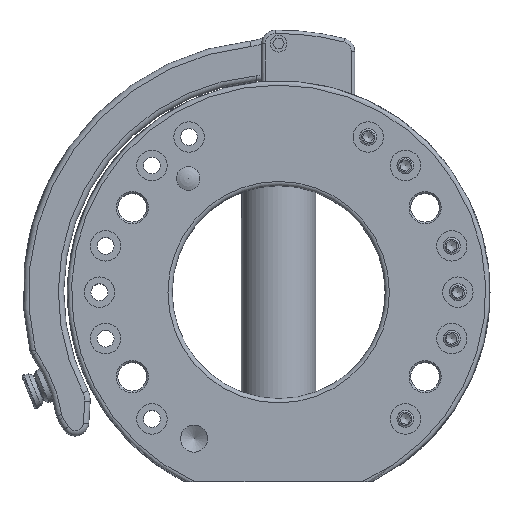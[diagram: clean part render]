
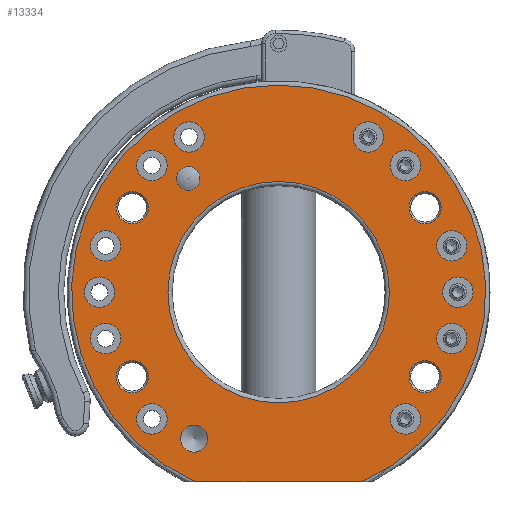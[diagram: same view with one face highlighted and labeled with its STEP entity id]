
A CAD part, top view. The second image highlights one B-rep face of the part: STEP entity #13334.
In plain terms, the highlighted planar face has unit normal (0, 0, 1).
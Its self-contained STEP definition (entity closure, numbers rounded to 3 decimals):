
#380=FACE_BOUND('',#3594,.T.);
#381=FACE_BOUND('',#3595,.T.);
#382=FACE_BOUND('',#3596,.T.);
#383=FACE_BOUND('',#3597,.T.);
#384=FACE_BOUND('',#3598,.T.);
#385=FACE_BOUND('',#3599,.T.);
#386=FACE_BOUND('',#3600,.T.);
#387=FACE_BOUND('',#3601,.T.);
#388=FACE_BOUND('',#3602,.T.);
#389=FACE_BOUND('',#3603,.T.);
#390=FACE_BOUND('',#3604,.T.);
#391=FACE_BOUND('',#3605,.T.);
#392=FACE_BOUND('',#3606,.T.);
#393=FACE_BOUND('',#3607,.T.);
#394=FACE_BOUND('',#3608,.T.);
#395=FACE_BOUND('',#3609,.T.);
#396=FACE_BOUND('',#3610,.T.);
#397=FACE_BOUND('',#3611,.T.);
#398=FACE_BOUND('',#3612,.T.);
#574=PLANE('',#14561);
#1088=LINE('',#26298,#1837);
#1837=VECTOR('',#16883,10.);
#2744=FACE_OUTER_BOUND('',#3593,.T.);
#3593=EDGE_LOOP('',(#10117,#10118));
#3594=EDGE_LOOP('',(#10119));
#3595=EDGE_LOOP('',(#10120));
#3596=EDGE_LOOP('',(#10121));
#3597=EDGE_LOOP('',(#10122));
#3598=EDGE_LOOP('',(#10123));
#3599=EDGE_LOOP('',(#10124));
#3600=EDGE_LOOP('',(#10125));
#3601=EDGE_LOOP('',(#10126));
#3602=EDGE_LOOP('',(#10127));
#3603=EDGE_LOOP('',(#10128));
#3604=EDGE_LOOP('',(#10129));
#3605=EDGE_LOOP('',(#10130));
#3606=EDGE_LOOP('',(#10131));
#3607=EDGE_LOOP('',(#10132));
#3608=EDGE_LOOP('',(#10133));
#3609=EDGE_LOOP('',(#10134));
#3610=EDGE_LOOP('',(#10135));
#3611=EDGE_LOOP('',(#10136));
#3612=EDGE_LOOP('',(#10137));
#5074=CIRCLE('',#14562,61.25);
#5075=CIRCLE('',#14563,32.75);
#5076=CIRCLE('',#14564,3.5);
#5077=CIRCLE('',#14565,4.);
#5078=CIRCLE('',#14566,4.75);
#5079=CIRCLE('',#14567,4.75);
#5080=CIRCLE('',#14568,4.75);
#5081=CIRCLE('',#14569,4.75);
#5082=CIRCLE('',#14570,4.5);
#5083=CIRCLE('',#14571,4.5);
#5084=CIRCLE('',#14572,4.5);
#5085=CIRCLE('',#14573,4.5);
#5086=CIRCLE('',#14574,4.5);
#5087=CIRCLE('',#14575,4.5);
#5088=CIRCLE('',#14576,4.5);
#5089=CIRCLE('',#14577,4.5);
#5090=CIRCLE('',#14578,4.5);
#5091=CIRCLE('',#14579,4.5);
#5092=CIRCLE('',#14580,4.5);
#5093=CIRCLE('',#14581,4.5);
#5993=VERTEX_POINT('',#26296);
#5994=VERTEX_POINT('',#26297);
#5995=VERTEX_POINT('',#26300);
#5996=VERTEX_POINT('',#26302);
#5997=VERTEX_POINT('',#26304);
#5998=VERTEX_POINT('',#26306);
#5999=VERTEX_POINT('',#26308);
#6000=VERTEX_POINT('',#26310);
#6001=VERTEX_POINT('',#26312);
#6002=VERTEX_POINT('',#26314);
#6003=VERTEX_POINT('',#26316);
#6004=VERTEX_POINT('',#26318);
#6005=VERTEX_POINT('',#26320);
#6006=VERTEX_POINT('',#26322);
#6007=VERTEX_POINT('',#26324);
#6008=VERTEX_POINT('',#26326);
#6009=VERTEX_POINT('',#26328);
#6010=VERTEX_POINT('',#26330);
#6011=VERTEX_POINT('',#26332);
#6012=VERTEX_POINT('',#26334);
#6013=VERTEX_POINT('',#26336);
#7518=EDGE_CURVE('',#5993,#5994,#1088,.T.);
#7519=EDGE_CURVE('',#5993,#5994,#5074,.T.);
#7520=EDGE_CURVE('',#5995,#5995,#5075,.T.);
#7521=EDGE_CURVE('',#5996,#5996,#5076,.T.);
#7522=EDGE_CURVE('',#5997,#5997,#5077,.T.);
#7523=EDGE_CURVE('',#5998,#5998,#5078,.T.);
#7524=EDGE_CURVE('',#5999,#5999,#5079,.T.);
#7525=EDGE_CURVE('',#6000,#6000,#5080,.T.);
#7526=EDGE_CURVE('',#6001,#6001,#5081,.T.);
#7527=EDGE_CURVE('',#6002,#6002,#5082,.T.);
#7528=EDGE_CURVE('',#6003,#6003,#5083,.T.);
#7529=EDGE_CURVE('',#6004,#6004,#5084,.T.);
#7530=EDGE_CURVE('',#6005,#6005,#5085,.T.);
#7531=EDGE_CURVE('',#6006,#6006,#5086,.T.);
#7532=EDGE_CURVE('',#6007,#6007,#5087,.T.);
#7533=EDGE_CURVE('',#6008,#6008,#5088,.T.);
#7534=EDGE_CURVE('',#6009,#6009,#5089,.T.);
#7535=EDGE_CURVE('',#6010,#6010,#5090,.T.);
#7536=EDGE_CURVE('',#6011,#6011,#5091,.T.);
#7537=EDGE_CURVE('',#6012,#6012,#5092,.T.);
#7538=EDGE_CURVE('',#6013,#6013,#5093,.T.);
#10117=ORIENTED_EDGE('',*,*,#7518,.T.);
#10118=ORIENTED_EDGE('',*,*,#7519,.F.);
#10119=ORIENTED_EDGE('',*,*,#7520,.F.);
#10120=ORIENTED_EDGE('',*,*,#7521,.T.);
#10121=ORIENTED_EDGE('',*,*,#7522,.T.);
#10122=ORIENTED_EDGE('',*,*,#7523,.F.);
#10123=ORIENTED_EDGE('',*,*,#7524,.F.);
#10124=ORIENTED_EDGE('',*,*,#7525,.F.);
#10125=ORIENTED_EDGE('',*,*,#7526,.F.);
#10126=ORIENTED_EDGE('',*,*,#7527,.T.);
#10127=ORIENTED_EDGE('',*,*,#7528,.T.);
#10128=ORIENTED_EDGE('',*,*,#7529,.T.);
#10129=ORIENTED_EDGE('',*,*,#7530,.T.);
#10130=ORIENTED_EDGE('',*,*,#7531,.T.);
#10131=ORIENTED_EDGE('',*,*,#7532,.T.);
#10132=ORIENTED_EDGE('',*,*,#7533,.T.);
#10133=ORIENTED_EDGE('',*,*,#7534,.T.);
#10134=ORIENTED_EDGE('',*,*,#7535,.T.);
#10135=ORIENTED_EDGE('',*,*,#7536,.T.);
#10136=ORIENTED_EDGE('',*,*,#7537,.T.);
#10137=ORIENTED_EDGE('',*,*,#7538,.T.);
#13334=ADVANCED_FACE('',(#2744,#380,#381,#382,#383,#384,#385,#386,#387,
#388,#389,#390,#391,#392,#393,#394,#395,#396,#397,#398),#574,.T.);
#14561=AXIS2_PLACEMENT_3D('',#26295,#16881,#16882);
#14562=AXIS2_PLACEMENT_3D('',#26299,#16884,#16885);
#14563=AXIS2_PLACEMENT_3D('',#26301,#16886,#16887);
#14564=AXIS2_PLACEMENT_3D('',#26303,#16888,#16889);
#14565=AXIS2_PLACEMENT_3D('',#26305,#16890,#16891);
#14566=AXIS2_PLACEMENT_3D('',#26307,#16892,#16893);
#14567=AXIS2_PLACEMENT_3D('',#26309,#16894,#16895);
#14568=AXIS2_PLACEMENT_3D('',#26311,#16896,#16897);
#14569=AXIS2_PLACEMENT_3D('',#26313,#16898,#16899);
#14570=AXIS2_PLACEMENT_3D('',#26315,#16900,#16901);
#14571=AXIS2_PLACEMENT_3D('',#26317,#16902,#16903);
#14572=AXIS2_PLACEMENT_3D('',#26319,#16904,#16905);
#14573=AXIS2_PLACEMENT_3D('',#26321,#16906,#16907);
#14574=AXIS2_PLACEMENT_3D('',#26323,#16908,#16909);
#14575=AXIS2_PLACEMENT_3D('',#26325,#16910,#16911);
#14576=AXIS2_PLACEMENT_3D('',#26327,#16912,#16913);
#14577=AXIS2_PLACEMENT_3D('',#26329,#16914,#16915);
#14578=AXIS2_PLACEMENT_3D('',#26331,#16916,#16917);
#14579=AXIS2_PLACEMENT_3D('',#26333,#16918,#16919);
#14580=AXIS2_PLACEMENT_3D('',#26335,#16920,#16921);
#14581=AXIS2_PLACEMENT_3D('',#26337,#16922,#16923);
#16881=DIRECTION('center_axis',(0.,0.,
1.));
#16882=DIRECTION('ref_axis',(1.,0.,0.));
#16883=DIRECTION('',(1.,0.,0.));
#16884=DIRECTION('center_axis',(0.,0.,
-1.));
#16885=DIRECTION('ref_axis',(-1.,0.,0.));
#16886=DIRECTION('center_axis',(0.,0.,
1.));
#16887=DIRECTION('ref_axis',(-1.,0.,0.));
#16888=DIRECTION('center_axis',(0.,0.,
-1.));
#16889=DIRECTION('ref_axis',(-1.,0.,0.));
#16890=DIRECTION('center_axis',(0.,0.,
-1.));
#16891=DIRECTION('ref_axis',(1.,0.,0.));
#16892=DIRECTION('center_axis',(0.,0.,
1.));
#16893=DIRECTION('ref_axis',(-1.,0.,0.));
#16894=DIRECTION('center_axis',(0.,0.,
1.));
#16895=DIRECTION('ref_axis',(-1.,0.,0.));
#16896=DIRECTION('center_axis',(0.,0.,
1.));
#16897=DIRECTION('ref_axis',(-1.,0.,0.));
#16898=DIRECTION('center_axis',(0.,0.,
1.));
#16899=DIRECTION('ref_axis',(-1.,0.,0.));
#16900=DIRECTION('center_axis',(0.,0.,
-1.));
#16901=DIRECTION('ref_axis',(1.,0.,0.));
#16902=DIRECTION('center_axis',(0.,0.,
-1.));
#16903=DIRECTION('ref_axis',(1.,0.,0.));
#16904=DIRECTION('center_axis',(0.,0.,
-1.));
#16905=DIRECTION('ref_axis',(1.,0.,0.));
#16906=DIRECTION('center_axis',(0.,0.,
-1.));
#16907=DIRECTION('ref_axis',(1.,0.,0.));
#16908=DIRECTION('center_axis',(0.,0.,
-1.));
#16909=DIRECTION('ref_axis',(1.,0.,0.));
#16910=DIRECTION('center_axis',(0.,0.,
-1.));
#16911=DIRECTION('ref_axis',(1.,0.,0.));
#16912=DIRECTION('center_axis',(0.,0.,
-1.));
#16913=DIRECTION('ref_axis',(1.,0.,0.));
#16914=DIRECTION('center_axis',(0.,0.,
-1.));
#16915=DIRECTION('ref_axis',(1.,0.,0.));
#16916=DIRECTION('center_axis',(0.,0.,
-1.));
#16917=DIRECTION('ref_axis',(1.,0.,0.));
#16918=DIRECTION('center_axis',(0.,0.,
-1.));
#16919=DIRECTION('ref_axis',(1.,0.,0.));
#16920=DIRECTION('center_axis',(0.,0.,
-1.));
#16921=DIRECTION('ref_axis',(1.,0.,0.));
#16922=DIRECTION('center_axis',(0.,0.,
-1.));
#16923=DIRECTION('ref_axis',(1.,0.,0.));
#26295=CARTESIAN_POINT('Origin',(0.,0.,
38.));
#26296=CARTESIAN_POINT('',(-24.811,-56.,38.));
#26297=CARTESIAN_POINT('',(24.811,-56.,38.));
#26298=CARTESIAN_POINT('',(-13.877,-56.,38.));
#26299=CARTESIAN_POINT('Origin',(0.,0.,
38.));
#26300=CARTESIAN_POINT('',(32.75,0.,38.));
#26301=CARTESIAN_POINT('Origin',(0.,0.,
38.));
#26302=CARTESIAN_POINT('',(-23.268,33.652,38.));
#26303=CARTESIAN_POINT('Origin',(-26.768,33.652,38.));
#26304=CARTESIAN_POINT('',(-29.,-43.301,38.));
#26305=CARTESIAN_POINT('Origin',(-25.,-43.301,38.));
#26306=CARTESIAN_POINT('',(-38.551,-25.,38.));
#26307=CARTESIAN_POINT('Origin',(-43.301,-25.,38.));
#26308=CARTESIAN_POINT('',(48.051,25.,38.));
#26309=CARTESIAN_POINT('Origin',(43.301,25.,38.));
#26310=CARTESIAN_POINT('',(48.051,-25.,38.));
#26311=CARTESIAN_POINT('Origin',(43.301,-25.,38.));
#26312=CARTESIAN_POINT('',(-38.551,25.,38.));
#26313=CARTESIAN_POINT('Origin',(-43.301,25.,38.));
#26314=CARTESIAN_POINT('',(-57.5,0.,38.));
#26315=CARTESIAN_POINT('Origin',(-53.,0.,38.));
#26316=CARTESIAN_POINT('',(46.694,-13.717,38.));
#26317=CARTESIAN_POINT('Origin',(51.194,-13.717,38.));
#26318=CARTESIAN_POINT('',(46.694,13.717,38.));
#26319=CARTESIAN_POINT('Origin',(51.194,13.717,38.));
#26320=CARTESIAN_POINT('',(22.,45.899,38.));
#26321=CARTESIAN_POINT('Origin',(26.5,45.899,38.));
#26322=CARTESIAN_POINT('',(-41.977,37.477,38.));
#26323=CARTESIAN_POINT('Origin',(-37.477,37.477,38.));
#26324=CARTESIAN_POINT('',(-55.694,-13.717,38.));
#26325=CARTESIAN_POINT('Origin',(-51.194,-13.717,38.));
#26326=CARTESIAN_POINT('',(-41.977,-37.477,38.));
#26327=CARTESIAN_POINT('Origin',(-37.477,-37.477,38.));
#26328=CARTESIAN_POINT('',(-55.694,13.717,38.));
#26329=CARTESIAN_POINT('Origin',(-51.194,13.717,38.));
#26330=CARTESIAN_POINT('',(-31.,45.899,38.));
#26331=CARTESIAN_POINT('Origin',(-26.5,45.899,38.));
#26332=CARTESIAN_POINT('',(32.977,37.477,38.));
#26333=CARTESIAN_POINT('Origin',(37.477,37.477,38.));
#26334=CARTESIAN_POINT('',(48.5,0.,38.));
#26335=CARTESIAN_POINT('Origin',(53.,0.,38.));
#26336=CARTESIAN_POINT('',(32.977,-37.477,38.));
#26337=CARTESIAN_POINT('Origin',(37.477,-37.477,38.));
